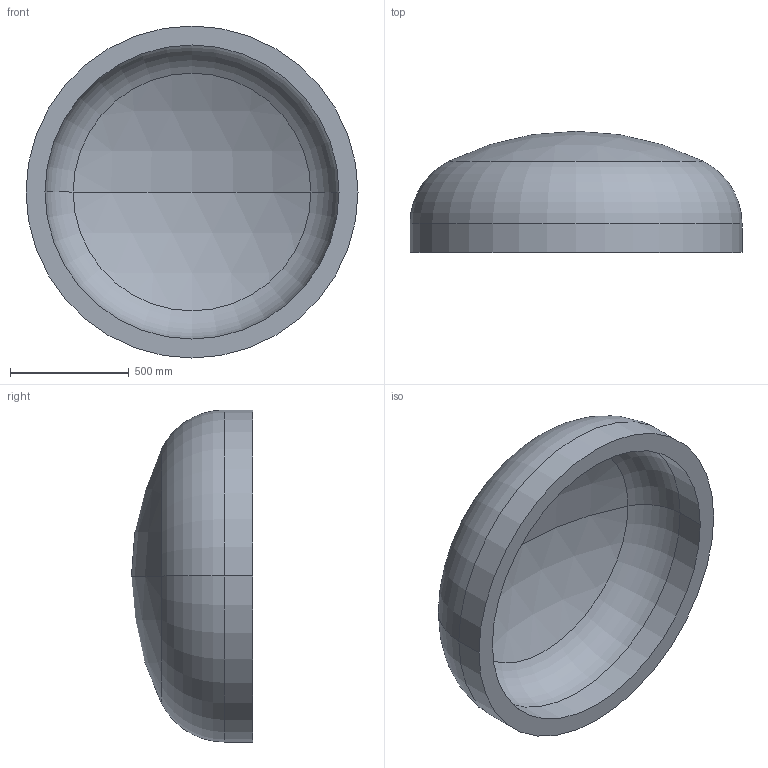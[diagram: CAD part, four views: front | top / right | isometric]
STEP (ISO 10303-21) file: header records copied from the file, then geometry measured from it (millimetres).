
FILE_DESCRIPTION (( 'STEP AP203' ), '1' );
FILE_NAME ('DIN 28013 Korbbogenform_-_Boden DIN 28013 - 1400 x 120 - I - s=80.step', '2016-07-01T10:25:47', ( '' ), ( '' ), 'SwSTEP 2.0', 'SolidWorks 2013', '' );
FILE_SCHEMA (( 'CONFIG_CONTROL_DESIGN' ));
Length unit declared in the file: millimetre
Products named in the file (1): DIN 28013 Korbbogenform_-_Boden DIN 28013 - 1400 x 120 - I - s=80
Bounding box: 1400 x 510.68 x 1400 mm (x, y, z)
Volume: 198272470.5 mm3; surface area: 5301966.9 mm2
Topology: 1 solids, 1 shells, 13 faces, 24 edges, 14 vertices
Faces by surface type: torus 4, cylinder 4, sphere 4, plane 1
Entity records: 407 total; most frequent: DIRECTION 72, CARTESIAN_POINT 52, ORIENTED_EDGE 48, AXIS2_PLACEMENT_3D 34, EDGE_CURVE 24, CIRCLE 20, VERTEX_POINT 14, EDGE_LOOP 14
